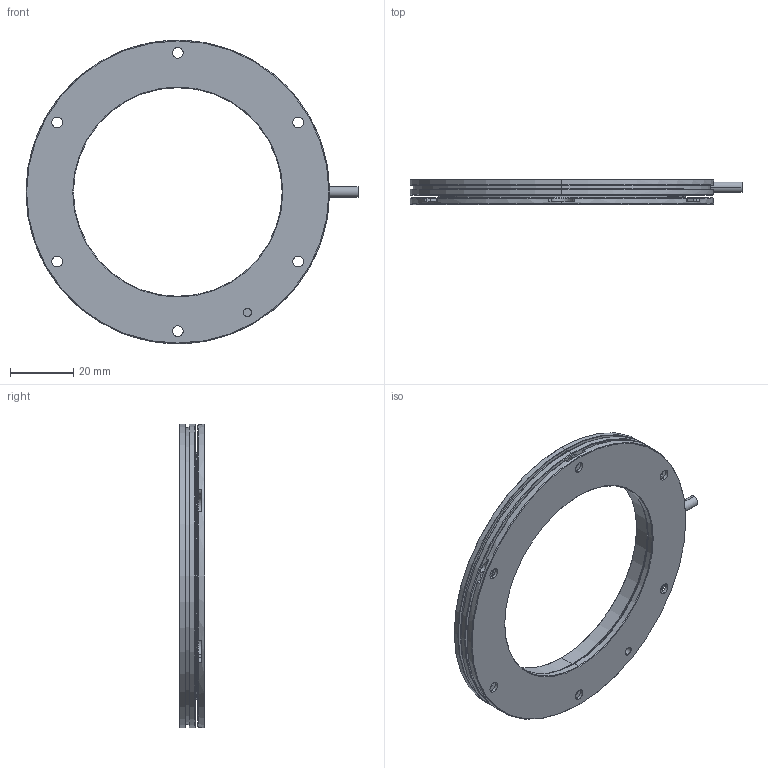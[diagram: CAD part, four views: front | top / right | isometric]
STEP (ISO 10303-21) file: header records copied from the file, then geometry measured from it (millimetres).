
FILE_DESCRIPTION (( 'STEP AP214' ), '1' );
FILE_NAME ('GMI-ROT-096-B11-K0x-AL_rev01.STEP', '2023-11-08T09:13:46', ( '' ), ( '' ), 'SwSTEP 2.0', 'SolidWorks 2021', '' );
FILE_SCHEMA (( 'AUTOMOTIVE_DESIGN' ));
Length unit declared in the file: millimetre
Products named in the file (1): GMI-ROT-096-B11-K0x-AL_rev01
Bounding box: 105 x 8 x 96 mm (x, y, z)
Volume: 25419.4 mm3; surface area: 30153 mm2
Topology: 6 solids, 6 shells, 362 faces, 878 edges, 547 vertices
Faces by surface type: cylinder 183, cone 108, plane 71
Entity records: 14874 total; most frequent: DIRECTION 2079, CARTESIAN_POINT 1870, ORIENTED_EDGE 1756, EDGE_CURVE 878, AXIS2_PLACEMENT_3D 856, VERTEX_POINT 547, CIRCLE 493, EDGE_LOOP 417
